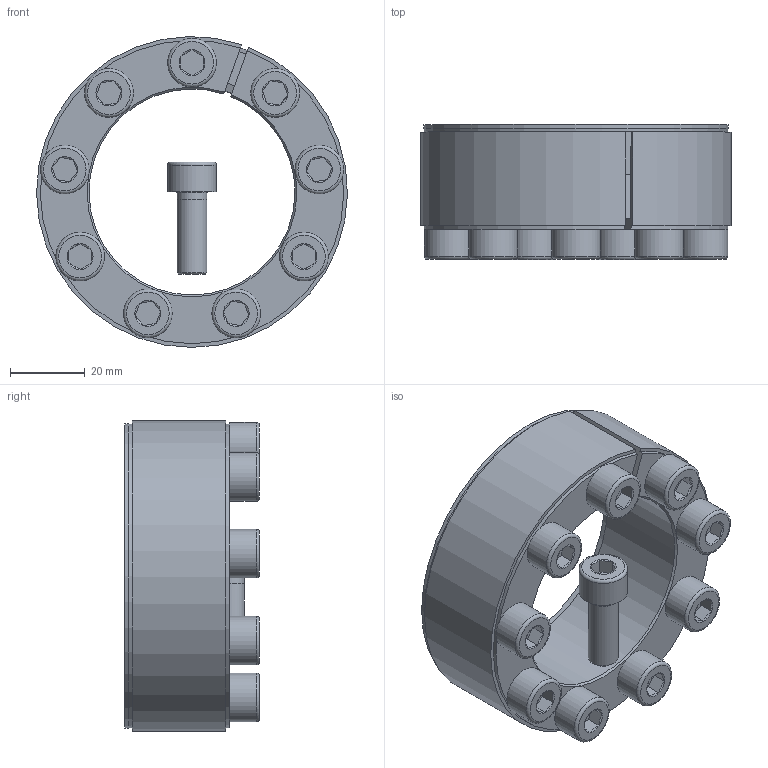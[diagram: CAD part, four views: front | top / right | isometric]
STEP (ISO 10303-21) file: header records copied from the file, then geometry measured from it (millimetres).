
FILE_DESCRIPTION( ( 'Unknown' ), '1' );
FILE_NAME( 'C:/Dokumente und Einstellungen/Sven/Desktop/homepage/cad - homepage/KBS52/KBS 52 - 55 x 83.stp', 'Unknown', ( 'Unknown' ), ( 'Unknown' ), 'XStep 1.0', 'Unknown', ' ' );
FILE_SCHEMA( ( 'automotive_design' ) );
Length unit declared in the file: millimetre
Products named in the file (3): Assem1; KBS 52 - 55 x 83; ISO EN DIN 4762 M8x22
Bounding box: 82.99 x 36 x 82.99 mm (x, y, z)
Volume: 162289.9 mm3; surface area: 59974.6 mm2
Topology: 12 solids, 12 shells, 308 faces, 606 edges, 360 vertices
Faces by surface type: plane 146, cone 76, cylinder 66, torus 20
Full cylindrical faces by diameter (mm): 7 x10, 8 x38, 13 x10, 81.175 x2
Entity records: 1789 total; most frequent: CARTESIAN_POINT 289, DIRECTION 271, ORIENTED_EDGE 200, AXIS2_PLACEMENT_3D 114, EDGE_CURVE 100, EDGE_LOOP 96, VERTEX_POINT 72, FACE_OUTER_BOUND 70
